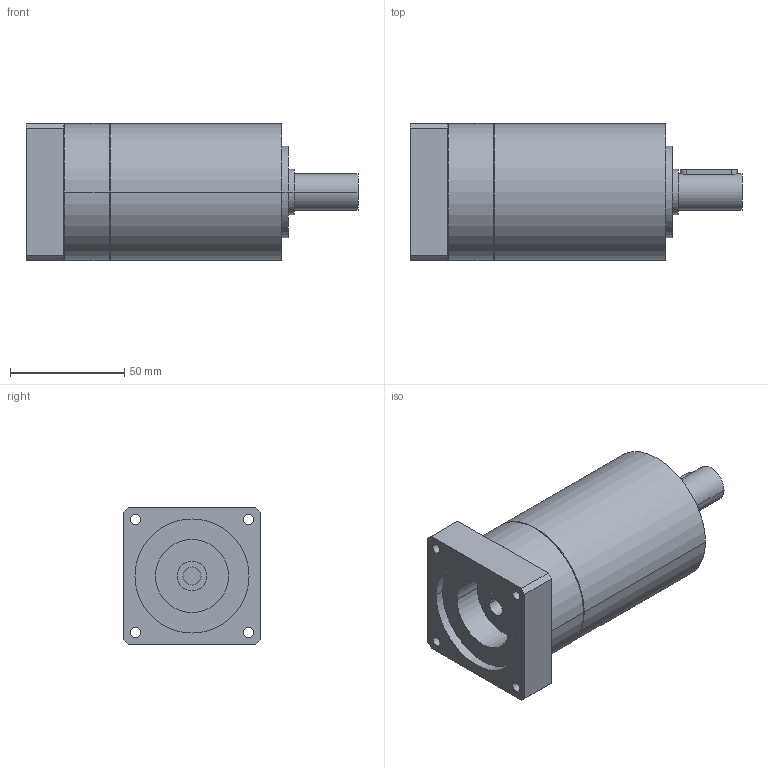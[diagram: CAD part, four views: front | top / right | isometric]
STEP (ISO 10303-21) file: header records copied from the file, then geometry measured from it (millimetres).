
FILE_DESCRIPTION(('CoCreate Modeling STEP Export'),'2;1');
FILE_NAME('GPR75_ig-9-12-16-20-24-30-36_16_B14_8_P17.stp','2014-08-25T16:06:03',(''),(''),'CoCreate Modeling STEP processor for AP214 (Solid Model)','CoCreate Modeling 16.00C 25-Feb-2009 (C) Parametric Technology GmbH','');
FILE_SCHEMA(('AUTOMOTIVE_DESIGN { 1 0 10303 214 1 1 1 1 }'));
Length unit declared in the file: millimetre
Products named in the file (2): GPR75_ig-9-12-16-20-24-30-36_16_B14_8_P17
Assembly tree (1 placements, depth 2):
  GPR75_ig-9-12-16-20-24-30-36_16_B14_8_P17
    GPR75_ig-9-12-16-20-24-30-36_16_B14_8_P17
Bounding box: 145.4 x 60 x 60 mm (x, y, z)
Volume: 319112.9 mm3; surface area: 35441.9 mm2
Topology: 1 solids, 1 shells, 70 faces, 189 edges, 133 vertices
Faces by surface type: cylinder 42, plane 22, cone 6
Entity records: 1944 total; most frequent: ORIENTED_EDGE 374, CARTESIAN_POINT 361, DIRECTION 262, EDGE_CURVE 187, VERTEX_POINT 133, AXIS2_PLACEMENT_3D 98, EDGE_LOOP 92, FACE_OUTER_BOUND 70
